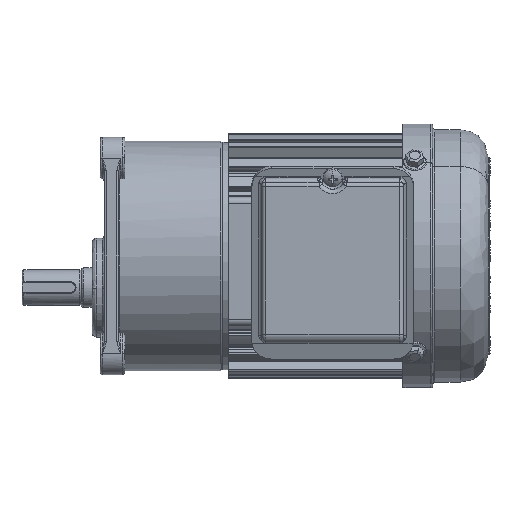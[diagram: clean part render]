
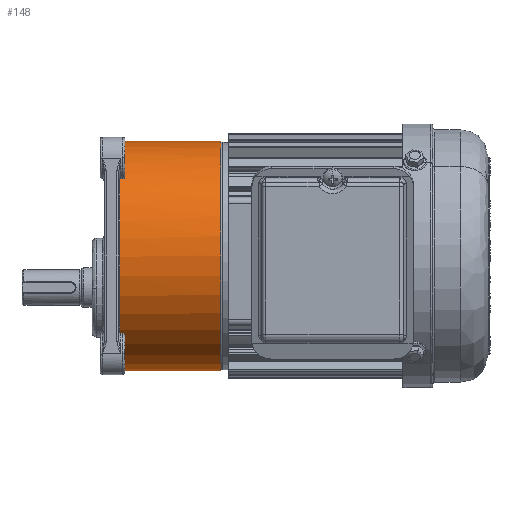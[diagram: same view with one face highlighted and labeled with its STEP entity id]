
A CAD part, left-side view. The second image highlights one B-rep face of the part: STEP entity #148.
In plain terms, the highlighted cylindrical face has radius 58 mm (diameter 116 mm), a partial arc.
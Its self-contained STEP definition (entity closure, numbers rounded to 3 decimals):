
#136 = ORIENTED_EDGE ( 'NONE', *, *, #26150, .F. ) ;
#140 = EDGE_LOOP ( 'NONE', ( #136, #7898, #7890, #7894, #7976 ) ) ;
#146 = EDGE_CURVE ( 'NONE', #26152, #19040, #32785, .T. ) ;
#148 = ADVANCED_FACE ( 'NONE', ( #32775 ), #32774, .T. ) ;
#7890 = ORIENTED_EDGE ( 'NONE', *, *, #26282, .T. ) ;
#7892 = EDGE_CURVE ( 'NONE', #23327, #23392, #37796, .T. ) ;
#7894 = ORIENTED_EDGE ( 'NONE', *, *, #19048, .F. ) ;
#7898 = ORIENTED_EDGE ( 'NONE', *, *, #7892, .F. ) ;
#7976 = ORIENTED_EDGE ( 'NONE', *, *, #146, .F. ) ;
#18961 = CARTESIAN_POINT ( 'NONE',  ( -57.999, 40.5, -0.323 ) ) ;
#19040 = VERTEX_POINT ( 'NONE', #18961 ) ;
#19048 = EDGE_CURVE ( 'NONE', #19040, #19049, #19104, .T. ) ;
#19049 = VERTEX_POINT ( 'NONE', #19095 ) ;
#19095 = CARTESIAN_POINT ( 'NONE',  ( 0., 40.5, 58. ) ) ;
#19097 = DIRECTION ( 'NONE',  ( 1., 0., 0. ) ) ;
#19099 = DIRECTION ( 'NONE',  ( 0., 1., 0. ) ) ;
#19101 = CARTESIAN_POINT ( 'NONE',  ( 0., 40.5, 0. ) ) ;
#19103 = AXIS2_PLACEMENT_3D ( 'NONE', #19101, #19099, #19097 ) ;
#19104 = CIRCLE ( 'NONE', #19103, 58. ) ;
#23327 = VERTEX_POINT ( 'NONE', #36514 ) ;
#23392 = VERTEX_POINT ( 'NONE', #36731 ) ;
#26150 = EDGE_CURVE ( 'NONE', #23392, #26152, #45265, .T. ) ;
#26152 = VERTEX_POINT ( 'NONE', #45319 ) ;
#26282 = EDGE_CURVE ( 'NONE', #23327, #19049, #45903, .T. ) ;
#32760 = DIRECTION ( 'NONE',  ( 0., 0., 1. ) ) ;
#32762 = DIRECTION ( 'NONE',  ( 0., 1., 0. ) ) ;
#32764 = AXIS2_PLACEMENT_3D ( 'NONE', #32772, #32762, #32760 ) ;
#32772 = CARTESIAN_POINT ( 'NONE',  ( 0., 0., 0. ) ) ;
#32774 = CYLINDRICAL_SURFACE ( 'NONE', #32764, 58. ) ;
#32775 = FACE_OUTER_BOUND ( 'NONE', #140, .T. ) ;
#32778 = DIRECTION ( 'NONE',  ( 1., 0., 0. ) ) ;
#32780 = DIRECTION ( 'NONE',  ( 0., 1., 0. ) ) ;
#32782 = CARTESIAN_POINT ( 'NONE',  ( 0., 40.5, 0. ) ) ;
#32783 = AXIS2_PLACEMENT_3D ( 'NONE', #32782, #32780, #32778 ) ;
#32785 = CIRCLE ( 'NONE', #32783, 58. ) ;
#36514 = CARTESIAN_POINT ( 'NONE',  ( 0., -10.5, 58. ) ) ;
#36731 = CARTESIAN_POINT ( 'NONE',  ( 0., -10.5, -58. ) ) ;
#37789 = DIRECTION ( 'NONE',  ( 0., 0., 1. ) ) ;
#37791 = DIRECTION ( 'NONE',  ( 0., -1., 0. ) ) ;
#37793 = CARTESIAN_POINT ( 'NONE',  ( 0., -10.5, 0. ) ) ;
#37795 = AXIS2_PLACEMENT_3D ( 'NONE', #37793, #37791, #37789 ) ;
#37796 = CIRCLE ( 'NONE', #37795, 58. ) ;
#45262 = DIRECTION ( 'NONE',  ( 0., 1., 0. ) ) ;
#45263 = VECTOR ( 'NONE', #45262, 1000. ) ;
#45264 = CARTESIAN_POINT ( 'NONE',  ( 0., 0., -58. ) ) ;
#45265 = LINE ( 'NONE', #45264, #45263 ) ;
#45319 = CARTESIAN_POINT ( 'NONE',  ( 0., 40.5, -58. ) ) ;
#45900 = DIRECTION ( 'NONE',  ( 0., 1., 0. ) ) ;
#45901 = VECTOR ( 'NONE', #45900, 1000. ) ;
#45902 = CARTESIAN_POINT ( 'NONE',  ( 0., 0., 58. ) ) ;
#45903 = LINE ( 'NONE', #45902, #45901 ) ;
